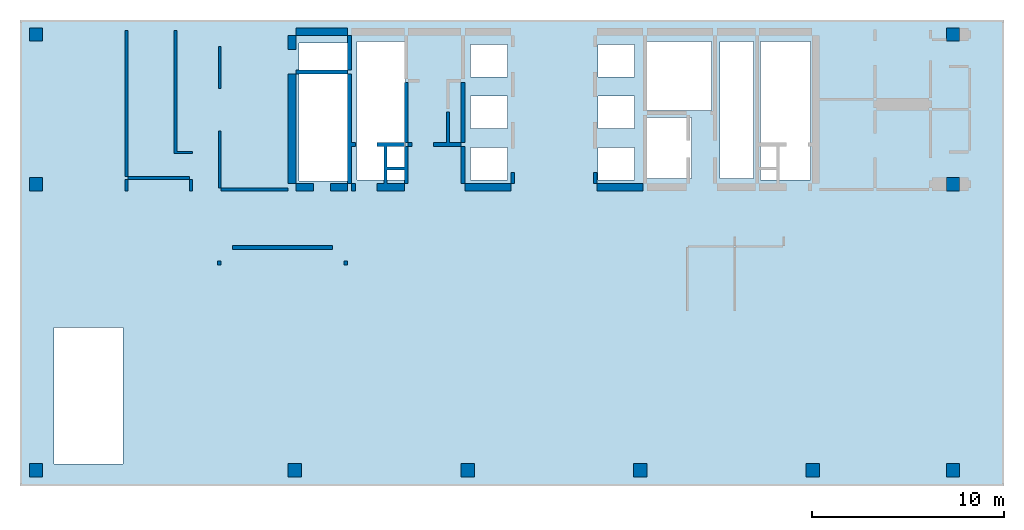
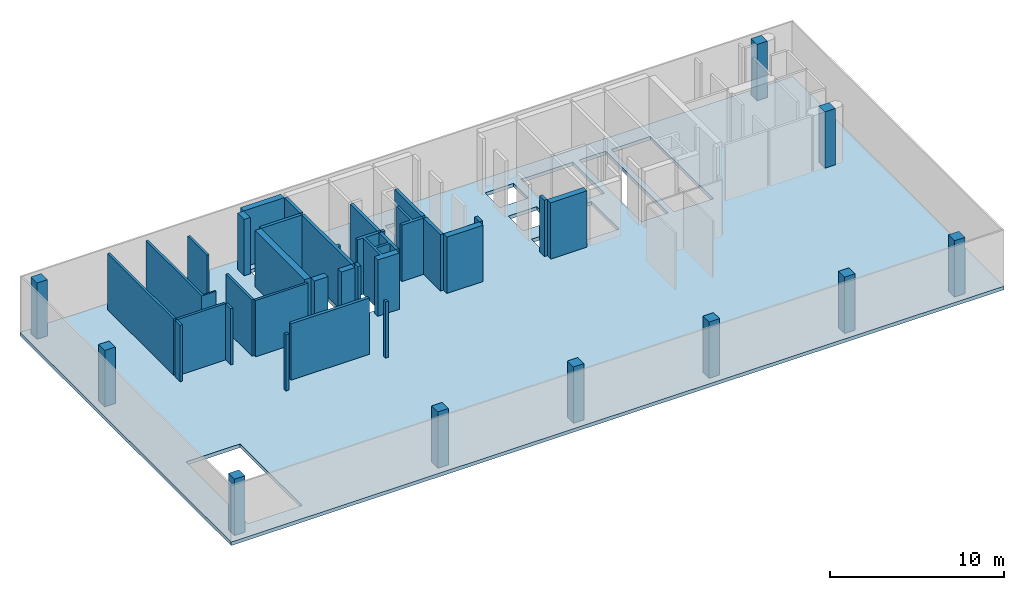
# One storey, part 1 of 4: 30 walls, 10 columns, 1 slab.
"""IFC4 building model written with IfcOpenShell, lengths in millimetres."""

from ifc_helpers import new_model, si_unit, frame, origin, place, context, project, spatial, triangles, element, save


model = new_model("IFC4")

# Units and contexts
model_context = context("Model", 3, precision=0.001, world=origin())
ifc_project = project(units=[si_unit("LENGTHUNIT", "METRE", prefix="MILLI"), si_unit("AREAUNIT", "SQUARE_METRE"), si_unit("VOLUMEUNIT", "CUBIC_METRE")], contexts=[model_context])

# Site, building, storey
site_placement = place(None, origin())
site = spatial("IfcSite", under=ifc_project, at=site_placement, Name="Site", CompositionType="ELEMENT")
building_placement = place(site_placement, origin())
building = spatial("IfcBuilding", under=site, at=building_placement, Name="INNOCEAN", CompositionType="ELEMENT")
storey_placement = place(building_placement, frame((0.0, 0.0, 30200.0)))
storey = spatial("IfcBuildingStorey", under=building, at=storey_placement, Name="F07", CompositionType="ELEMENT", Elevation=30200.0)

# Columns
column_1_placement = place(storey_placement, origin())
element("IfcColumn", 1, at=column_1_placement, inside=storey, Name="F07_Columns_F07_001", context=model_context, shape_type="Tessellation", body=[
    triangles([(40114.8, 2023.7, 0.0), (40114.8, 2023.7, 3950.0), (40114.8, 2722.3, 0.0), (40114.8, 2722.3, 3950.0), (40813.0, 2023.7, 3950.0), (40813.0, 2023.7, 0.0), (40813.0, 2722.3, 0.0), (40813.0, 2722.3, 3950.0)], [[1, 2, 3], [3, 2, 4], [5, 6, 7], [5, 7, 8], [6, 5, 1], [1, 5, 2], [8, 7, 3], [8, 3, 4], [3, 7, 1], [1, 7, 6], [8, 4, 2], [8, 2, 5]], closed=True),
])
column_2_placement = place(storey_placement, origin())
element("IfcColumn", 2, at=column_2_placement, inside=storey, Name="F07_Columns_F07_002", context=model_context, shape_type="Tessellation", body=[
    triangles([(47413.4, 24721.0, 0.0), (47413.4, 24721.0, 3950.0), (47413.4, 25419.5, 0.0), (47413.4, 25419.5, 3950.0), (48111.6, 24721.0, 3950.0), (48111.6, 24721.0, 0.0), (48111.6, 25419.5, 0.0), (48111.6, 25419.5, 3950.0)], [[1, 2, 3], [3, 2, 4], [5, 6, 7], [5, 7, 8], [6, 5, 1], [1, 5, 2], [8, 7, 3], [8, 3, 4], [1, 3, 6], [3, 7, 6], [4, 2, 5], [8, 4, 5]], closed=True),
])
column_3_placement = place(storey_placement, origin())
element("IfcColumn", 3, at=column_3_placement, inside=storey, Name="F07_Columns_F07_003", context=model_context, shape_type="Tessellation", body=[
    triangles([(47413.4, 16922.4, 0.0), (47413.4, 16922.4, 3950.0), (47413.4, 17620.9, 0.0), (47413.4, 17620.9, 3950.0), (48111.6, 16922.4, 3950.0), (48111.6, 16922.4, 0.0), (48111.6, 17620.9, 0.0), (48111.6, 17620.9, 3950.0)], [[1, 2, 3], [3, 2, 4], [5, 6, 7], [5, 7, 8], [6, 5, 1], [1, 5, 2], [8, 7, 3], [8, 3, 4], [1, 3, 6], [3, 7, 6], [4, 2, 5], [8, 4, 5]], closed=True),
])
column_4_placement = place(storey_placement, origin())
element("IfcColumn", 4, at=column_4_placement, inside=storey, Name="F07_Columns_F07_004", context=model_context, shape_type="Tessellation", body=[
    triangles([(13129.0, 2023.7, 0.0), (13129.0, 2023.7, 3950.0), (13129.0, 2722.3, 0.0), (13129.0, 2722.3, 3950.0), (13827.2, 2023.7, 3950.0), (13827.2, 2023.7, 0.0), (13827.2, 2722.3, 0.0), (13827.2, 2722.3, 3950.0)], [[1, 2, 3], [3, 2, 4], [5, 6, 7], [5, 7, 8], [6, 5, 1], [1, 5, 2], [8, 7, 3], [8, 3, 4], [3, 7, 1], [1, 7, 6], [8, 4, 2], [8, 2, 5]], closed=True),
])
column_5_placement = place(storey_placement, origin())
element("IfcColumn", 5, at=column_5_placement, inside=storey, Name="F07_Columns_F07_005", context=model_context, shape_type="Tessellation", body=[
    triangles([(47413.4, 2023.7, 0.0), (47413.4, 2023.7, 3950.0), (47413.4, 2722.3, 0.0), (47413.4, 2722.3, 3950.0), (48111.6, 2023.7, 3950.0), (48111.6, 2023.7, 0.0), (48111.6, 2722.3, 0.0), (48111.6, 2722.3, 3950.0)], [[1, 2, 3], [3, 2, 4], [5, 6, 7], [5, 7, 8], [6, 5, 1], [1, 5, 2], [8, 7, 3], [8, 3, 4], [3, 7, 1], [1, 7, 6], [8, 4, 2], [8, 2, 5]], closed=True),
])
column_6_placement = place(storey_placement, origin())
element("IfcColumn", 6, at=column_6_placement, inside=storey, Name="F07_Columns_F07_006", context=model_context, shape_type="Tessellation", body=[
    triangles([(-363.9, 2023.7, 0.0), (-363.9, 2023.7, 3950.0), (-363.9, 2722.3, 0.0), (-363.9, 2722.3, 3950.0), (334.3, 2023.7, 3950.0), (334.3, 2023.7, 0.0), (334.3, 2722.3, 0.0), (334.3, 2722.3, 3950.0)], [[1, 2, 3], [3, 2, 4], [5, 6, 7], [5, 7, 8], [6, 5, 1], [1, 5, 2], [8, 7, 3], [8, 3, 4], [3, 7, 1], [1, 7, 6], [8, 4, 2], [8, 2, 5]], closed=True),
])
column_7_placement = place(storey_placement, origin())
element("IfcColumn", 7, at=column_7_placement, inside=storey, Name="F07_Columns_F07_007", context=model_context, shape_type="Tessellation", body=[
    triangles([(-363.9, 24721.0, 0.0), (-363.9, 24721.0, 3950.0), (-363.9, 25419.5, 0.0), (-363.9, 25419.5, 3950.0), (334.3, 24721.0, 3950.0), (334.3, 24721.0, 0.0), (334.3, 25419.5, 0.0), (334.3, 25419.5, 3950.0)], [[1, 2, 3], [3, 2, 4], [5, 6, 7], [5, 7, 8], [6, 5, 1], [1, 5, 2], [8, 7, 3], [8, 3, 4], [3, 7, 1], [1, 7, 6], [8, 4, 2], [8, 2, 5]], closed=True),
])
column_8_placement = place(storey_placement, origin())
element("IfcColumn", 8, at=column_8_placement, inside=storey, Name="F07_Columns_F07_008", context=model_context, shape_type="Tessellation", body=[
    triangles([(31128.0, 2023.7, 0.0), (31128.0, 2023.7, 3950.0), (31128.0, 2722.3, 0.0), (31128.0, 2722.3, 3950.0), (31826.2, 2023.7, 3950.0), (31826.2, 2023.7, 0.0), (31826.2, 2722.3, 0.0), (31826.2, 2722.3, 3950.0)], [[1, 2, 3], [3, 2, 4], [5, 6, 7], [5, 7, 8], [6, 5, 1], [1, 5, 2], [8, 7, 3], [8, 3, 4], [3, 7, 1], [1, 7, 6], [8, 4, 2], [8, 2, 5]], closed=True),
])
column_9_placement = place(storey_placement, origin())
element("IfcColumn", 9, at=column_9_placement, inside=storey, Name="F07_Columns_F07_009", context=model_context, shape_type="Tessellation", body=[
    triangles([(22128.5, 2023.7, 0.0), (22128.5, 2023.7, 3950.0), (22128.5, 2722.3, 0.0), (22128.5, 2722.3, 3950.0), (22826.7, 2023.7, 3950.0), (22826.7, 2023.7, 0.0), (22826.7, 2722.3, 0.0), (22826.7, 2722.3, 3950.0)], [[1, 2, 3], [3, 2, 4], [5, 6, 7], [5, 7, 8], [6, 5, 1], [1, 5, 2], [8, 7, 3], [8, 3, 4], [3, 7, 1], [1, 7, 6], [8, 4, 2], [8, 2, 5]], closed=True),
])
column_10_placement = place(storey_placement, origin())
element("IfcColumn", 10, at=column_10_placement, inside=storey, Name="F07_Columns_F07_010", context=model_context, shape_type="Tessellation", body=[
    triangles([(-363.9, 16922.4, 0.0), (-363.9, 16922.4, 3950.0), (-363.9, 17620.9, 0.0), (-363.9, 17620.9, 3950.0), (334.3, 16922.4, 3950.0), (334.3, 16922.4, 0.0), (334.3, 17620.9, 0.0), (334.3, 17620.9, 3950.0)], [[1, 2, 3], [3, 2, 4], [5, 6, 7], [5, 7, 8], [6, 5, 1], [1, 5, 2], [8, 7, 3], [8, 3, 4], [3, 7, 1], [1, 7, 6], [8, 4, 2], [8, 2, 5]], closed=True),
])

# Slab
slab_placement = place(storey_placement, origin())
element("IfcSlab", 11, at=slab_placement, inside=storey, Name="F07_Slab_F07_001", context=model_context, shape_type="Tessellation", body=[
    triangles([(-846.215139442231, 25825.974025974, 0.0), (50420.3187250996, 25825.974025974, -250.0), (-846.215139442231, 25825.974025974, -250.0), (50420.3187250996, 25825.974025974, 0.0), (-846.215139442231, 1552.38095238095, 0.0), (-846.215139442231, 1552.38095238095, -250.0), (50420.3187250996, 1552.38095238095, 0.0), (50420.3187250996, 1552.38095238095, -250.0), (4513.14741035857, 9808.22510822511, 0.0), (916.733067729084, 9808.22510822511, 0.0), (916.733067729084, 9808.22510822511, -250.0), (4513.14741035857, 9808.22510822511, -250.0), (4513.14741035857, 2681.38528138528, 0.0), (4513.14741035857, 2681.38528138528, -250.0), (916.733067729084, 2681.38528138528, 0.0), (916.733067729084, 2681.38528138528, -250.0), (34130.6772908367, 20745.4545454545, -250.0), (31733.0677290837, 20745.4545454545, 0.0), (31733.0677290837, 20745.4545454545, -250.0), (34130.6772908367, 20745.4545454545, 0.0), (31733.0677290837, 17570.1298701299, 0.0), (31733.0677290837, 17570.1298701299, -250.0), (34130.6772908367, 17570.1298701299, 0.0), (34130.6772908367, 17570.1298701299, -250.0), (31168.9243027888, 19193.0735930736, 0.0), (29264.9402390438, 19193.0735930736, 0.0), (29264.9402390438, 19193.0735930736, -250.0), (31168.9243027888, 19193.0735930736, -250.0), (29264.9402390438, 17499.5670995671, 0.0), (29264.9402390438, 17499.5670995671, -250.0), (31168.9243027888, 17499.5670995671, 0.0), (31168.9243027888, 17499.5670995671, -250.0), (24540.2390438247, 19193.0735930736, -250.0), (22636.2549800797, 19193.0735930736, 0.0), (22636.2549800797, 19193.0735930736, -250.0), (24540.2390438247, 19193.0735930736, 0.0), (22636.2549800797, 17499.5670995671, 0.0), (22636.2549800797, 17499.5670995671, -250.0), (24540.2390438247, 17499.5670995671, 0.0), (24540.2390438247, 17499.5670995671, -250.0), (40336.2549800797, 24696.9696969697, -250.0), (37727.0916334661, 24696.9696969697, 0.0), (37727.0916334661, 24696.9696969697, -250.0), (40336.2549800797, 24696.9696969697, 0.0), (37727.0916334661, 17499.5670995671, 0.0), (37727.0916334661, 17499.5670995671, -250.0), (40336.2549800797, 17499.5670995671, 0.0), (40336.2549800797, 17499.5670995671, -250.0), (37374.5019920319, 24696.9696969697, 0.0), (35611.5537848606, 24696.9696969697, 0.0), (35611.5537848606, 24696.9696969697, -250.0), (37374.5019920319, 24696.9696969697, -250.0), (35611.5537848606, 17570.1298701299, 0.0), (35611.5537848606, 17570.1298701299, -250.0), (37374.5019920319, 17570.1298701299, 0.0), (37374.5019920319, 17570.1298701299, -250.0), (35188.4462151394, 24696.9696969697, 0.0), (31733.0677290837, 24696.9696969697, 0.0), (31733.0677290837, 24696.9696969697, -250.0), (35188.4462151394, 24696.9696969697, -250.0), (31733.0677290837, 21098.2683982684, 0.0), (31733.0677290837, 21098.2683982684, -250.0), (35188.4462151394, 21098.2683982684, 0.0), (35188.4462151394, 21098.2683982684, -250.0), (31168.9243027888, 21874.4588744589, 0.0), (29264.9402390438, 21874.4588744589, 0.0), (29264.9402390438, 21874.4588744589, -250.0), (31168.9243027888, 21874.4588744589, -250.0), (29264.9402390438, 20180.9523809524, 0.0), (29264.9402390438, 20180.9523809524, -250.0), (31168.9243027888, 20180.9523809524, 0.0), (31168.9243027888, 20180.9523809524, -250.0), (24540.2390438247, 21874.4588744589, -250.0), (22636.2549800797, 21874.4588744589, 0.0), (22636.2549800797, 21874.4588744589, -250.0), (24540.2390438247, 21874.4588744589, 0.0), (22636.2549800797, 20180.9523809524, 0.0), (22636.2549800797, 20180.9523809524, -250.0), (24540.2390438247, 20180.9523809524, 0.0), (24540.2390438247, 20180.9523809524, -250.0), (31168.9243027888, 24555.8441558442, 0.0), (29264.9402390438, 24555.8441558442, 0.0), (29264.9402390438, 24555.8441558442, -250.0), (31168.9243027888, 24555.8441558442, -250.0), (29264.9402390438, 22862.3376623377, 0.0), (29264.9402390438, 22862.3376623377, -250.0), (31168.9243027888, 22862.3376623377, 0.0), (31168.9243027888, 22862.3376623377, -250.0), (24540.2390438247, 24555.8441558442, -250.0), (22636.2549800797, 24555.8441558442, 0.0), (22636.2549800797, 24555.8441558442, -250.0), (24540.2390438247, 24555.8441558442, 0.0), (22636.2549800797, 22862.3376623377, 0.0), (22636.2549800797, 22862.3376623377, -250.0), (24540.2390438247, 22862.3376623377, 0.0), (24540.2390438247, 22862.3376623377, -250.0), (19251.3944223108, 24696.9696969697, 0.0), (16712.7490039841, 24696.9696969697, 0.0), (16712.7490039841, 24696.9696969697, -250.0), (19251.3944223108, 24696.9696969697, -250.0), (16712.7490039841, 17499.5670995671, 0.0), (16712.7490039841, 17499.5670995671, -250.0), (19251.3944223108, 17499.5670995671, 0.0), (19251.3944223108, 17499.5670995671, -250.0), (16219.1235059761, 24626.4069264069, 0.0), (13680.4780876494, 24626.4069264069, 0.0), (13680.4780876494, 24626.4069264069, -250.0), (16219.1235059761, 24626.4069264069, -250.0), (13680.4780876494, 17429.0043290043, 0.0), (13680.4780876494, 17429.0043290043, -250.0), (16219.1235059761, 17429.0043290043, 0.0), (16219.1235059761, 17429.0043290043, -250.0)], [[1, 2, 3], [1, 4, 2], [5, 1, 6], [6, 1, 3], [4, 7, 2], [2, 7, 8], [7, 6, 8], [7, 5, 6], [9, 10, 11], [9, 11, 12], [13, 9, 12], [13, 12, 14], [15, 13, 14], [15, 14, 16], [10, 15, 16], [10, 16, 11], [17, 18, 19], [20, 18, 17], [18, 21, 22], [18, 22, 19], [23, 20, 17], [23, 17, 24], [22, 23, 24], [21, 23, 22], [25, 26, 27], [25, 27, 28], [26, 29, 30], [26, 30, 27], [31, 25, 28], [31, 28, 32], [29, 31, 32], [29, 32, 30], [33, 34, 35], [36, 34, 33], [34, 37, 38], [34, 38, 35], [39, 36, 33], [39, 33, 40], [38, 39, 40], [37, 39, 38], [41, 42, 43], [44, 42, 41], [42, 45, 46], [42, 46, 43], [47, 44, 41], [47, 41, 48], [46, 47, 48], [45, 47, 46], [49, 50, 51], [49, 51, 52], [50, 53, 54], [50, 54, 51], [55, 49, 52], [55, 52, 56], [53, 55, 56], [53, 56, 54], [57, 58, 59], [57, 59, 60], [58, 61, 62], [58, 62, 59], [63, 57, 60], [63, 60, 64], [61, 63, 64], [61, 64, 62], [65, 66, 67], [65, 67, 68], [66, 69, 70], [66, 70, 67], [71, 65, 68], [71, 68, 72], [69, 71, 72], [69, 72, 70], [73, 74, 75], [76, 74, 73], [74, 77, 78], [74, 78, 75], [79, 76, 73], [79, 73, 80], [78, 79, 80], [77, 79, 78], [81, 82, 83], [81, 83, 84], [82, 85, 86], [82, 86, 83], [87, 81, 84], [87, 84, 88], [85, 87, 88], [85, 88, 86], [89, 90, 91], [92, 90, 89], [90, 93, 94], [90, 94, 91], [95, 92, 89], [95, 89, 96], [94, 95, 96], [93, 95, 94], [97, 98, 99], [97, 99, 100], [98, 101, 102], [98, 102, 99], [103, 97, 100], [103, 100, 104], [101, 103, 104], [101, 104, 102], [105, 106, 107], [105, 107, 108], [106, 109, 110], [106, 110, 107], [111, 105, 108], [111, 108, 112], [109, 111, 112], [109, 112, 110], [4, 47, 7], [47, 45, 7], [45, 53, 7], [55, 53, 45], [53, 23, 7], [4, 44, 47], [21, 31, 23], [23, 31, 7], [63, 20, 53], [53, 20, 23], [21, 25, 31], [31, 29, 7], [25, 18, 71], [18, 61, 71], [20, 61, 18], [50, 57, 63], [71, 26, 25], [61, 65, 71], [71, 69, 26], [61, 87, 65], [58, 81, 87], [87, 85, 65], [65, 85, 66], [29, 36, 39], [69, 36, 26], [26, 36, 29], [58, 82, 81], [69, 79, 36], [66, 79, 69], [66, 76, 79], [79, 77, 36], [36, 77, 34], [39, 13, 29], [37, 13, 39], [29, 13, 7], [34, 103, 37], [37, 103, 13], [77, 103, 34], [85, 95, 66], [66, 95, 76], [77, 74, 103], [95, 74, 76], [85, 92, 95], [82, 92, 85], [95, 93, 74], [103, 111, 13], [101, 111, 103], [15, 5, 13], [13, 5, 7], [111, 9, 13], [109, 9, 111], [90, 97, 93], [74, 97, 103], [93, 97, 74], [98, 105, 101], [101, 105, 111], [15, 10, 5], [98, 106, 105], [9, 1, 10], [10, 1, 5], [106, 1, 109], [109, 1, 9], [4, 1, 44], [44, 1, 42], [42, 1, 49], [49, 1, 50], [50, 1, 57], [57, 1, 58], [58, 1, 82], [82, 1, 92], [92, 1, 90], [90, 1, 97], [97, 1, 98], [98, 1, 106], [21, 18, 25], [53, 50, 63], [49, 55, 42], [42, 55, 45], [61, 58, 87], [63, 61, 20], [48, 2, 8], [46, 48, 8], [54, 46, 8], [54, 56, 46], [24, 54, 8], [41, 2, 48], [32, 22, 24], [32, 24, 8], [17, 64, 54], [17, 54, 24], [28, 22, 32], [30, 32, 8], [19, 28, 72], [62, 19, 72], [62, 17, 19], [60, 51, 64], [27, 72, 28], [68, 62, 72], [70, 72, 27], [88, 62, 68], [84, 59, 88], [86, 88, 68], [86, 68, 67], [33, 30, 40], [33, 70, 27], [33, 27, 30], [83, 59, 84], [80, 70, 33], [80, 67, 70], [73, 67, 80], [78, 80, 33], [78, 33, 35], [14, 40, 30], [14, 38, 40], [14, 30, 8], [104, 35, 38], [104, 38, 14], [104, 78, 35], [96, 86, 67], [96, 67, 73], [75, 78, 104], [75, 96, 73], [89, 86, 96], [89, 83, 86], [94, 96, 75], [112, 104, 14], [112, 102, 104], [6, 16, 14], [6, 14, 8], [12, 112, 14], [12, 110, 112], [100, 91, 94], [100, 75, 104], [100, 94, 75], [108, 99, 102], [108, 102, 112], [11, 16, 6], [107, 99, 108], [3, 12, 11], [3, 11, 6], [3, 107, 110], [3, 110, 12], [3, 2, 41], [3, 41, 43], [3, 43, 52], [3, 52, 51], [3, 51, 60], [3, 60, 59], [3, 59, 83], [3, 83, 89], [3, 89, 91], [3, 91, 100], [3, 100, 99], [3, 99, 107], [19, 22, 28], [51, 54, 64], [56, 52, 43], [56, 43, 46], [59, 62, 88], [62, 64, 17]], closed=True),
])

# Walls
wall_1_placement = place(storey_placement, origin())
element("IfcWall", 12, at=wall_1_placement, inside=storey, Name="F07_Walls_F07_001", context=model_context, shape_type="Tessellation", body=[
    triangles([(9638.4, 13073.9, 0.0), (9638.4, 13277.1, 0.0), (9638.4, 13277.1, 3950.0), (9638.4, 13073.9, 3950.0), (9435.3, 13073.9, 0.0), (9435.3, 13073.9, 3950.0), (9435.3, 13277.1, 0.0), (9435.3, 13277.1, 3950.0)], [[1, 2, 3], [1, 3, 4], [5, 1, 4], [5, 4, 6], [7, 5, 6], [7, 6, 8], [2, 7, 8], [2, 8, 3], [7, 2, 1], [7, 1, 5], [3, 8, 4], [4, 8, 6]], closed=True),
])
wall_2_placement = place(storey_placement, origin())
element("IfcWall", 13, at=wall_2_placement, inside=storey, Name="F07_Walls_F07_002", context=model_context, shape_type="Tessellation", body=[
    triangles([(16226.2, 13073.9, 0.0), (16226.2, 13277.1, 0.0), (16226.2, 13277.1, 3950.0), (16226.2, 13073.9, 3950.0), (16035.8, 13073.9, 0.0), (16035.8, 13073.9, 3950.0), (16035.8, 13277.1, 0.0), (16035.8, 13277.1, 3950.0)], [[1, 2, 3], [1, 3, 4], [5, 1, 4], [5, 4, 6], [7, 5, 6], [7, 6, 8], [2, 7, 8], [2, 8, 3], [7, 2, 1], [7, 1, 5], [3, 8, 4], [4, 8, 6]], closed=True),
])
wall_3_placement = place(storey_placement, origin())
element("IfcWall", 14, at=wall_3_placement, inside=storey, Name="F07_Walls_F07_003", context=model_context, shape_type="Tessellation", body=[
    triangles([(15426.5, 13874.1, 0.0), (15426.5, 14077.3, 0.0), (15426.5, 14077.3, 3950.0), (15426.5, 13874.1, 3950.0), (10235.0, 13874.1, 0.0), (10235.0, 13874.1, 3950.0), (10235.0, 14077.3, 0.0), (10235.0, 14077.3, 3950.0)], [[1, 2, 3], [1, 3, 4], [5, 1, 4], [5, 4, 6], [7, 5, 6], [7, 6, 8], [2, 7, 8], [2, 8, 3], [5, 2, 1], [7, 2, 5], [3, 6, 4], [3, 8, 6]], closed=True),
])
wall_4_placement = place(storey_placement, origin())
element("IfcWall", 15, at=wall_4_placement, inside=storey, Name="F07_Walls_F07_004", context=model_context, shape_type="Tessellation", body=[
    triangles([(13129.0, 16922.4, 0.0), (13129.0, 17074.8, 0.0), (13129.0, 17074.8, 3950.0), (13129.0, 16922.4, 3950.0), (9638.4, 16922.4, 3950.0), (9638.4, 16922.4, 0.0), (9638.4, 17074.8, 0.0), (9638.4, 17074.8, 3950.0)], [[1, 2, 3], [1, 3, 4], [1, 4, 5], [6, 1, 5], [7, 6, 5], [7, 5, 8], [7, 8, 3], [2, 7, 3], [7, 2, 1], [7, 1, 6], [3, 8, 4], [4, 8, 5]], closed=True),
])
wall_5_placement = place(storey_placement, origin())
element("IfcWall", 16, at=wall_5_placement, inside=storey, Name="F07_Walls_F07_005", context=model_context, shape_type="Tessellation", body=[
    triangles([(16226.2, 17316.1, 0.0), (16226.2, 17316.1, 3950.0), (16226.2, 16922.4, 3950.0), (16226.2, 16922.4, 0.0), (15337.6, 16922.4, 0.0), (15337.6, 16922.4, 3950.0), (15337.6, 17316.1, 3950.0), (15337.6, 17316.1, 0.0)], [[1, 2, 3], [4, 1, 3], [5, 4, 3], [5, 3, 6], [5, 6, 7], [8, 5, 7], [1, 8, 7], [1, 7, 2], [8, 1, 4], [8, 4, 5], [2, 7, 3], [3, 7, 6]], closed=True),
])
wall_6_placement = place(storey_placement, origin())
element("IfcWall", 17, at=wall_6_placement, inside=storey, Name="F07_Walls_F07_006", context=model_context, shape_type="Tessellation", body=[
    triangles([(14436.4, 17316.1, 0.0), (14436.4, 17316.1, 3950.0), (14436.4, 16922.4, 3950.0), (14436.4, 16922.4, 0.0), (13535.2, 16922.4, 0.0), (13535.2, 16922.4, 3950.0), (13535.2, 17316.1, 3950.0), (13535.2, 17316.1, 0.0)], [[1, 2, 3], [4, 1, 3], [5, 4, 3], [5, 3, 6], [5, 6, 7], [8, 5, 7], [1, 8, 7], [1, 7, 2], [8, 1, 4], [8, 4, 5], [2, 7, 3], [3, 7, 6]], closed=True),
])
wall_7_placement = place(storey_placement, origin())
element("IfcWall", 18, at=wall_7_placement, inside=storey, Name="F07_Walls_F07_007", context=model_context, shape_type="Tessellation", body=[
    triangles([(16632.4, 17316.1, 0.0), (16632.4, 17316.1, 3950.0), (16632.4, 16922.4, 3950.0), (16632.4, 16922.4, 0.0), (16429.3, 16922.4, 3950.0), (16429.3, 16922.4, 0.0), (16429.3, 17316.1, 3950.0), (16429.3, 17316.1, 0.0)], [[1, 2, 3], [4, 1, 3], [4, 3, 5], [6, 4, 5], [6, 5, 7], [8, 6, 7], [8, 7, 2], [1, 8, 2], [8, 1, 4], [8, 4, 6], [2, 7, 3], [3, 7, 5]], closed=True),
])
wall_8_placement = place(storey_placement, origin())
element("IfcWall", 19, at=wall_8_placement, inside=storey, Name="F07_Walls_F07_008", context=model_context, shape_type="Tessellation", body=[
    triangles([(17749.4, 16922.4, 0.0), (17749.4, 16922.4, 3950.0), (17749.4, 17316.1, 3950.0), (17749.4, 17316.1, 0.0), (19183.7, 16922.4, 0.0), (19183.7, 16922.4, 3950.0), (19183.7, 17316.1, 0.0), (19183.7, 17316.1, 3950.0), (19374.1, 17316.1, 0.0), (19374.1, 17316.1, 3950.0), (19374.1, 19246.7, 0.0), (19374.1, 19246.7, 3950.0), (19183.7, 19246.7, 0.0), (19183.7, 19246.7, 3950.0), (19183.7, 19449.9, 0.0), (19183.7, 19449.9, 3950.0), (17749.4, 19449.9, 0.0), (17749.4, 19449.9, 3950.0), (17749.4, 19246.7, 0.0), (17749.4, 19246.7, 3950.0), (18130.2, 19246.7, 0.0), (18130.2, 19246.7, 3950.0), (18130.2, 19245.0, 0.0), (18130.2, 19245.0, 3950.0), (18130.0, 19245.0, 0.0), (18130.0, 19245.0, 3950.0), (18130.0, 17316.1, 0.0), (18130.0, 17316.1, 3950.0), (18282.5, 17316.1, 0.0), (18282.5, 17316.1, 3950.0), (18282.5, 18014.7, 0.0), (18282.5, 18014.7, 3950.0), (19183.7, 18014.7, 0.0), (19183.7, 18014.7, 3950.0), (19183.7, 18167.1, 0.0), (19183.7, 18167.1, 3950.0), (18282.5, 18167.1, 0.0), (18282.5, 18167.1, 3950.0), (18282.5, 19246.7, 0.0), (18282.5, 19246.7, 3950.0)], [[1, 2, 3], [4, 1, 3], [1, 5, 6], [1, 6, 2], [7, 8, 6], [5, 7, 6], [7, 9, 10], [7, 10, 8], [9, 11, 12], [9, 12, 10], [11, 13, 14], [11, 14, 12], [13, 15, 16], [13, 16, 14], [15, 17, 18], [15, 18, 16], [17, 19, 20], [17, 20, 18], [21, 22, 20], [19, 21, 20], [21, 23, 24], [21, 24, 22], [23, 25, 26], [23, 26, 24], [25, 27, 28], [25, 28, 26], [27, 4, 3], [27, 3, 28], [7, 29, 30], [7, 30, 8], [29, 31, 32], [29, 32, 30], [31, 33, 34], [31, 34, 32], [33, 7, 8], [33, 8, 34], [13, 35, 36], [13, 36, 14], [35, 37, 38], [35, 38, 36], [37, 39, 40], [37, 40, 38], [39, 13, 14], [39, 14, 40], [33, 9, 7], [35, 9, 33], [29, 7, 5], [1, 29, 5], [27, 29, 1], [4, 27, 1], [31, 35, 33], [31, 29, 27], [11, 9, 35], [37, 35, 31], [13, 11, 35], [39, 15, 13], [23, 39, 37], [25, 23, 37], [21, 39, 23], [17, 21, 19], [17, 15, 39], [17, 39, 21], [27, 25, 37], [27, 37, 31], [10, 34, 8], [10, 36, 34], [8, 30, 6], [30, 2, 6], [30, 28, 2], [28, 3, 2], [36, 32, 34], [30, 32, 28], [10, 12, 36], [36, 38, 32], [12, 14, 36], [16, 40, 14], [40, 24, 38], [24, 26, 38], [40, 22, 24], [22, 18, 20], [16, 18, 40], [40, 18, 22], [26, 28, 38], [38, 28, 32]], closed=True),
])
wall_9_placement = place(storey_placement, origin())
element("IfcWall", 20, at=wall_9_placement, inside=storey, Name="F07_Walls_F07_009", context=model_context, shape_type="Tessellation", body=[
    triangles([(4789.6, 16922.4, 0.0), (4789.6, 17519.3, 0.0), (4789.6, 17519.3, 3950.0), (4789.6, 16922.4, 3950.0), (4637.3, 16922.4, 0.0), (4637.3, 16922.4, 3950.0), (4637.3, 17519.3, 0.0), (4637.3, 17519.3, 3950.0)], [[1, 2, 3], [1, 3, 4], [5, 1, 4], [5, 4, 6], [7, 5, 6], [7, 6, 8], [2, 7, 8], [2, 8, 3], [7, 2, 1], [7, 1, 5], [3, 8, 4], [4, 8, 6]], closed=True),
])
wall_10_placement = place(storey_placement, origin())
element("IfcWall", 21, at=wall_10_placement, inside=storey, Name="F07_Walls_F07_010", context=model_context, shape_type="Tessellation", body=[
    triangles([(8140.6, 16922.4, 0.0), (8140.6, 17519.3, 0.0), (8140.6, 17519.3, 3950.0), (8140.6, 16922.4, 3950.0), (7988.3, 16922.4, 0.0), (7988.3, 16922.4, 3950.0), (7988.3, 17519.3, 0.0), (7988.3, 17519.3, 3950.0)], [[1, 2, 3], [1, 3, 4], [5, 1, 4], [5, 4, 6], [7, 5, 6], [7, 6, 8], [2, 7, 8], [2, 8, 3], [7, 2, 1], [7, 1, 5], [3, 8, 4], [4, 8, 6]], closed=True),
])
wall_11_placement = place(storey_placement, origin())
element("IfcWall", 22, at=wall_11_placement, inside=storey, Name="F07_Walls_F07_011", context=model_context, shape_type="Tessellation", body=[
    triangles([(7988.3, 17519.3, 0.0), (7988.3, 17671.7, 0.0), (7988.3, 17671.7, 3950.0), (7988.3, 17519.3, 3950.0), (4789.6, 17519.3, 0.0), (4789.6, 17519.3, 3950.0), (4789.6, 17671.7, 0.0), (4789.6, 17671.7, 3950.0)], [[1, 2, 3], [1, 3, 4], [5, 1, 4], [5, 4, 6], [7, 5, 6], [7, 6, 8], [2, 7, 8], [2, 8, 3], [7, 2, 1], [7, 1, 5], [3, 8, 4], [4, 8, 6]], closed=True),
])
wall_12_placement = place(storey_placement, origin())
element("IfcWall", 23, at=wall_12_placement, inside=storey, Name="F07_Walls_F07_012", context=model_context, shape_type="Tessellation", body=[
    triangles([(16226.2, 23019.0, 0.0), (16226.2, 19449.9, 0.0), (16226.2, 19449.9, 3950.0), (16226.2, 23019.0, 3950.0), (16429.3, 23019.0, 0.0), (16429.3, 23019.0, 3950.0), (16429.3, 19449.9, 0.0), (16429.3, 19449.9, 3950.0), (16632.4, 19449.9, 3950.0), (16632.4, 19449.9, 0.0), (16632.4, 19246.7, 0.0), (16632.4, 19246.7, 3950.0), (16429.3, 19246.7, 3950.0), (16429.3, 19246.7, 0.0), (16429.3, 17316.1, 0.0), (16429.3, 17316.1, 3950.0), (16226.2, 17316.1, 0.0), (16226.2, 17316.1, 3950.0), (16226.2, 19246.7, 0.0), (16226.2, 19246.7, 3950.0)], [[1, 2, 3], [1, 3, 4], [5, 1, 4], [5, 4, 6], [7, 5, 6], [7, 6, 8], [7, 8, 9], [10, 7, 9], [11, 10, 9], [11, 9, 12], [11, 12, 13], [14, 11, 13], [15, 14, 13], [15, 13, 16], [17, 15, 16], [17, 16, 18], [19, 17, 18], [19, 18, 20], [2, 19, 20], [2, 20, 3], [19, 14, 15], [19, 15, 17], [7, 10, 11], [7, 11, 14], [2, 7, 14], [2, 14, 19], [5, 7, 2], [1, 5, 2], [13, 20, 16], [16, 20, 18], [9, 8, 12], [12, 8, 13], [8, 3, 13], [13, 3, 20], [8, 6, 3], [6, 4, 3]], closed=True),
])
wall_13_placement = place(storey_placement, origin())
element("IfcWall", 24, at=wall_13_placement, inside=storey, Name="F07_Walls_F07_013", context=model_context, shape_type="Tessellation", body=[
    triangles([(9638.4, 17074.8, 0.0), (9638.4, 20046.9, 0.0), (9638.4, 20046.9, 3950.0), (9638.4, 17074.8, 3950.0), (9486.1, 17074.8, 0.0), (9486.1, 17074.8, 3950.0), (9486.1, 20046.9, 0.0), (9486.1, 20046.9, 3950.0)], [[1, 2, 3], [1, 3, 4], [5, 1, 4], [5, 4, 6], [7, 5, 6], [7, 6, 8], [2, 7, 8], [2, 8, 3], [7, 2, 1], [7, 1, 5], [3, 8, 4], [4, 8, 6]], closed=True),
])
wall_14_placement = place(storey_placement, origin())
element("IfcWall", 25, at=wall_14_placement, inside=storey, Name="F07_Walls_F07_014", context=model_context, shape_type="Tessellation", body=[
    triangles([(7340.0, 18865.0, 0.0), (8140.0, 18865.0, 0.0), (8140.0, 18865.0, 3950.0), (7340.0, 18865.0, 3950.0), (7340.0, 18865.7, 3950.0), (7340.0, 18865.7, 0.0), (7188.6, 18865.7, 0.0), (7188.6, 18865.7, 3950.0), (7188.6, 25267.1, 3950.0), (7188.6, 25267.1, 0.0), (7340.9, 25267.1, 0.0), (7340.9, 25267.1, 3950.0), (7340.9, 18967.3, 0.0), (7340.9, 18967.3, 3950.0), (8140.6, 18967.3, 0.0), (8140.6, 18967.3, 3950.0), (8140.6, 18865.7, 0.0), (8140.6, 18865.7, 3950.0), (8140.0, 18865.7, 0.0), (8140.0, 18865.7, 3950.0)], [[1, 2, 3], [1, 3, 4], [1, 4, 5], [6, 1, 5], [7, 6, 5], [7, 5, 8], [9, 7, 8], [10, 7, 9], [11, 10, 9], [11, 9, 12], [13, 11, 12], [13, 12, 14], [15, 13, 14], [15, 14, 16], [17, 15, 16], [17, 16, 18], [19, 17, 18], [19, 18, 20], [19, 20, 3], [2, 19, 3], [15, 17, 19], [1, 19, 2], [6, 19, 1], [13, 15, 19], [13, 19, 6], [7, 13, 6], [10, 11, 13], [10, 13, 7], [18, 16, 20], [20, 4, 3], [20, 5, 4], [16, 14, 20], [20, 14, 5], [14, 8, 5], [12, 9, 14], [14, 9, 8]], closed=True),
])
wall_15_placement = place(storey_placement, origin())
element("IfcWall", 26, at=wall_15_placement, inside=storey, Name="F07_Walls_F07_015", context=model_context, shape_type="Tessellation", body=[
    triangles([(13535.2, 17316.1, 0.0), (13535.2, 23019.0, 0.0), (13535.2, 23019.0, 3950.0), (13535.2, 17316.1, 3950.0), (13129.0, 17316.1, 3950.0), (13129.0, 17316.1, 0.0), (13129.0, 23019.0, 0.0), (13129.0, 23019.0, 3950.0)], [[1, 2, 3], [1, 3, 4], [1, 4, 5], [6, 1, 5], [7, 6, 5], [7, 5, 8], [7, 8, 3], [2, 7, 3], [7, 2, 1], [7, 1, 6], [3, 8, 4], [4, 8, 5]], closed=True),
])
wall_16_placement = place(storey_placement, origin())
element("IfcWall", 27, at=wall_16_placement, inside=storey, Name="F07_Walls_F07_016", context=model_context, shape_type="Tessellation", body=[
    triangles([(19374.1, 19449.9, 0.0), (19374.1, 22574.4, 0.0), (19374.1, 22574.4, 3950.0), (19374.1, 19449.9, 3950.0), (19183.7, 19449.9, 0.0), (19183.7, 19449.9, 3950.0), (19183.7, 22574.4, 0.0), (19183.7, 22574.4, 3950.0)], [[1, 2, 3], [1, 3, 4], [5, 1, 4], [5, 4, 6], [7, 5, 6], [7, 6, 8], [2, 7, 8], [2, 8, 3], [2, 1, 5], [7, 2, 5], [4, 3, 6], [3, 8, 6]], closed=True),
])
wall_17_placement = place(storey_placement, origin())
element("IfcWall", 28, at=wall_17_placement, inside=storey, Name="F07_Walls_F07_017", context=model_context, shape_type="Tessellation", body=[
    triangles([(4789.6, 17671.7, 0.0), (4789.6, 25267.1, 0.0), (4789.6, 25267.1, 3950.0), (4789.6, 17671.7, 3950.0), (4637.3, 17671.7, 0.0), (4637.3, 17671.7, 3950.0), (4637.3, 25267.1, 0.0), (4637.3, 25267.1, 3950.0)], [[1, 2, 3], [1, 3, 4], [5, 1, 4], [5, 4, 6], [7, 5, 6], [7, 6, 8], [2, 7, 8], [2, 8, 3], [7, 2, 1], [7, 1, 5], [3, 8, 4], [4, 8, 6]], closed=True),
])
wall_18_placement = place(storey_placement, origin())
element("IfcWall", 29, at=wall_18_placement, inside=storey, Name="F07_Walls_F07_018", context=model_context, shape_type="Tessellation", body=[
    triangles([(16226.2, 23019.0, 0.0), (16226.2, 23222.2, 0.0), (16226.2, 23222.2, 3950.0), (16226.2, 23019.0, 3950.0), (13535.2, 23019.0, 0.0), (13535.2, 23019.0, 3950.0), (13535.2, 23222.2, 0.0), (13535.2, 23222.2, 3950.0)], [[1, 2, 3], [1, 3, 4], [5, 1, 4], [5, 4, 6], [7, 5, 6], [7, 6, 8], [2, 7, 8], [2, 8, 3], [7, 2, 1], [7, 1, 5], [3, 8, 4], [4, 8, 6]], closed=True),
])
wall_19_placement = place(storey_placement, origin())
element("IfcWall", 30, at=wall_19_placement, inside=storey, Name="F07_Walls_F07_019", context=model_context, shape_type="Tessellation", body=[
    triangles([(9638.4, 22244.2, 0.0), (9638.4, 24454.2, 0.0), (9638.4, 24454.2, 3950.0), (9638.4, 22244.2, 3950.0), (9486.1, 22244.2, 0.0), (9486.1, 22244.2, 3950.0), (9486.1, 24454.2, 0.0), (9486.1, 24454.2, 3950.0)], [[1, 2, 3], [1, 3, 4], [5, 1, 4], [5, 4, 6], [7, 5, 6], [7, 6, 8], [2, 7, 8], [2, 8, 3], [7, 2, 1], [7, 1, 5], [3, 8, 4], [4, 8, 6]], closed=True),
])
wall_20_placement = place(storey_placement, origin())
element("IfcWall", 31, at=wall_20_placement, inside=storey, Name="F07_Walls_F07_021", context=model_context, shape_type="Tessellation", body=[
    triangles([(16226.2, 25025.8, 0.0), (16226.2, 23222.2, 0.0), (16226.2, 23222.2, 3950.0), (16226.2, 25025.8, 3950.0), (16429.3, 25025.8, 0.0), (16429.3, 25025.8, 3950.0), (16429.3, 23222.2, 0.0), (16429.3, 23222.2, 3950.0)], [[1, 2, 3], [1, 3, 4], [5, 1, 4], [5, 4, 6], [7, 5, 6], [7, 6, 8], [2, 7, 8], [2, 8, 3], [1, 5, 7], [1, 7, 2], [6, 4, 8], [8, 4, 3]], closed=True),
])
wall_21_placement = place(storey_placement, origin())
element("IfcWall", 32, at=wall_21_placement, inside=storey, Name="F07_Walls_F07_022", context=model_context, shape_type="Tessellation", body=[
    triangles([(13535.2, 24276.4, 0.0), (13535.2, 25025.8, 0.0), (13535.2, 25025.8, 3950.0), (13535.2, 24276.4, 3950.0), (13129.0, 24276.4, 3950.0), (13129.0, 24276.4, 0.0), (13129.0, 25025.8, 0.0), (13129.0, 25025.8, 3950.0)], [[1, 2, 3], [1, 3, 4], [1, 4, 5], [6, 1, 5], [7, 6, 5], [7, 5, 8], [7, 8, 3], [2, 7, 3], [2, 1, 6], [7, 2, 6], [4, 3, 5], [3, 8, 5]], closed=True),
])
wall_22_placement = place(storey_placement, origin())
element("IfcWall", 33, at=wall_22_placement, inside=storey, Name="F07_Walls_F07_023", context=model_context, shape_type="Tessellation", body=[
    triangles([(13535.2, 25419.5, 0.0), (13535.2, 25025.8, 0.0), (13535.2, 25025.8, 3950.0), (13535.2, 25419.5, 3950.0), (16226.2, 25419.5, 0.0), (16226.2, 25419.5, 3950.0), (16226.2, 25025.8, 0.0), (16226.2, 25025.8, 3950.0)], [[1, 2, 3], [1, 3, 4], [5, 1, 4], [5, 4, 6], [7, 5, 6], [7, 6, 8], [2, 7, 8], [2, 8, 3], [2, 5, 7], [1, 5, 2], [6, 3, 8], [6, 4, 3]], closed=True),
])
wall_23_placement = place(storey_placement, origin())
element("IfcWall", 34, at=wall_23_placement, inside=storey, Name="F07_Walls_F07_026", context=model_context, shape_type="Tessellation", body=[
    triangles([(24730.6, 17316.1, 0.0), (24730.6, 17316.1, 3950.0), (24730.6, 16922.4, 3950.0), (24730.6, 16922.4, 0.0), (22331.6, 16922.4, 0.0), (22331.6, 16922.4, 3950.0), (22331.6, 17316.1, 3950.0), (22331.6, 17316.1, 0.0)], [[1, 2, 3], [4, 1, 3], [5, 4, 3], [5, 3, 6], [5, 6, 7], [8, 5, 7], [1, 8, 7], [1, 7, 2], [8, 1, 4], [8, 4, 5], [2, 7, 3], [3, 7, 6]], closed=True),
])
wall_24_placement = place(storey_placement, origin())
element("IfcWall", 35, at=wall_24_placement, inside=storey, Name="F07_Walls_F07_028", context=model_context, shape_type="Tessellation", body=[
    triangles([(31623.1, 17316.1, 0.0), (31623.1, 17316.1, 3950.0), (31623.1, 16922.4, 3950.0), (31623.1, 16922.4, 0.0), (29224.0, 16922.4, 0.0), (29224.0, 16922.4, 3950.0), (29224.0, 17316.1, 3950.0), (29224.0, 17316.1, 0.0)], [[1, 2, 3], [4, 1, 3], [5, 4, 3], [5, 3, 6], [5, 6, 7], [8, 5, 7], [1, 8, 7], [1, 7, 2], [8, 1, 4], [8, 4, 5], [2, 7, 3], [3, 7, 6]], closed=True),
])
wall_25_placement = place(storey_placement, origin())
element("IfcWall", 36, at=wall_25_placement, inside=storey, Name="F07_Walls_F07_029", context=model_context, shape_type="Tessellation", body=[
    triangles([(24921.0, 17875.0, 0.0), (24921.0, 17875.0, 3950.0), (24921.0, 17316.1, 3950.0), (24921.0, 17316.1, 0.0), (24730.6, 17316.1, 0.0), (24730.6, 17316.1, 3950.0), (24730.6, 17875.0, 3950.0), (24730.6, 17875.0, 0.0)], [[1, 2, 3], [4, 1, 3], [5, 4, 3], [5, 3, 6], [5, 6, 7], [8, 5, 7], [1, 8, 7], [1, 7, 2], [8, 1, 4], [8, 4, 5], [2, 7, 3], [3, 7, 6]], closed=True),
])
wall_26_placement = place(storey_placement, origin())
element("IfcWall", 37, at=wall_26_placement, inside=storey, Name="F07_Walls_F07_030", context=model_context, shape_type="Tessellation", body=[
    triangles([(29224.0, 17875.0, 0.0), (29224.0, 17875.0, 3950.0), (29224.0, 17316.1, 3950.0), (29224.0, 17316.1, 0.0), (29020.9, 17316.1, 0.0), (29020.9, 17316.1, 3950.0), (29020.9, 17875.0, 3950.0), (29020.9, 17875.0, 0.0)], [[1, 2, 3], [4, 1, 3], [5, 4, 3], [5, 3, 6], [5, 6, 7], [8, 5, 7], [1, 8, 7], [1, 7, 2], [8, 1, 4], [8, 4, 5], [2, 7, 3], [3, 7, 6]], closed=True),
])
wall_27_placement = place(storey_placement, origin())
element("IfcWall", 38, at=wall_27_placement, inside=storey, Name="F07_Walls_F07_031", context=model_context, shape_type="Tessellation", body=[
    triangles([(22331.6, 17316.1, 0.0), (22331.6, 19246.7, 0.0), (22331.6, 19246.7, 3950.0), (22331.6, 17316.1, 3950.0), (22128.5, 17316.1, 0.0), (22128.5, 17316.1, 3950.0), (22128.5, 19246.7, 0.0), (22128.5, 19246.7, 3950.0)], [[1, 2, 3], [1, 3, 4], [5, 1, 4], [5, 4, 6], [7, 5, 6], [7, 6, 8], [2, 7, 8], [2, 8, 3], [7, 2, 1], [7, 1, 5], [3, 8, 4], [4, 8, 6]], closed=True),
])
wall_28_placement = place(storey_placement, origin())
element("IfcWall", 39, at=wall_28_placement, inside=storey, Name="F07_Walls_F07_033", context=model_context, shape_type="Tessellation", body=[
    triangles([(19374.1, 19449.9, 0.0), (19374.1, 19449.9, 3950.0), (19577.2, 19449.9, 3950.0), (19577.2, 19449.9, 0.0), (19577.2, 19246.7, 0.0), (19577.2, 19246.7, 3950.0), (19374.1, 19246.7, 3950.0), (19374.1, 19246.7, 0.0)], [[1, 2, 3], [4, 1, 3], [5, 4, 3], [5, 3, 6], [5, 6, 7], [8, 5, 7], [1, 8, 7], [1, 7, 2], [1, 4, 5], [1, 5, 8], [3, 2, 6], [6, 2, 7]], closed=True),
])
wall_29_placement = place(storey_placement, origin())
element("IfcWall", 40, at=wall_29_placement, inside=storey, Name="F07_Walls_F07_034", context=model_context, shape_type="Tessellation", body=[
    triangles([(21366.9, 21024.9, 0.0), (21366.9, 19449.9, 0.0), (21366.9, 19449.9, 3950.0), (21366.9, 21024.9, 3950.0), (21519.3, 21024.9, 0.0), (21519.3, 21024.9, 3950.0), (21519.3, 19449.9, 0.0), (21519.3, 19449.9, 3950.0), (22128.5, 19449.9, 0.0), (22128.5, 19449.9, 3950.0), (22128.5, 19246.7, 0.0), (22128.5, 19246.7, 3950.0), (20694.2, 19246.7, 0.0), (20694.2, 19246.7, 3950.0), (20694.2, 19449.9, 0.0), (20694.2, 19449.9, 3950.0)], [[1, 2, 3], [1, 3, 4], [5, 1, 4], [5, 4, 6], [7, 5, 6], [7, 6, 8], [9, 7, 8], [9, 8, 10], [11, 9, 10], [11, 10, 12], [13, 11, 12], [13, 12, 14], [15, 13, 14], [15, 14, 16], [2, 15, 16], [2, 16, 3], [7, 9, 11], [2, 7, 11], [13, 2, 11], [15, 2, 13], [1, 5, 7], [1, 7, 2], [10, 8, 12], [8, 3, 12], [3, 14, 12], [3, 16, 14], [6, 4, 8], [8, 4, 3]], closed=True),
])
wall_30_placement = place(storey_placement, origin())
element("IfcWall", 41, at=wall_30_placement, inside=storey, Name="F07_Walls_F07_038", context=model_context, shape_type="Tessellation", body=[
    triangles([(22331.6, 19449.9, 0.0), (22331.6, 22574.4, 0.0), (22331.6, 22574.4, 3950.0), (22331.6, 19449.9, 3950.0), (22128.5, 19449.9, 0.0), (22128.5, 19449.9, 3950.0), (22128.5, 22574.4, 0.0), (22128.5, 22574.4, 3950.0)], [[1, 2, 3], [1, 3, 4], [5, 1, 4], [5, 4, 6], [7, 5, 6], [7, 6, 8], [2, 7, 8], [2, 8, 3], [2, 1, 5], [7, 2, 5], [4, 3, 6], [3, 8, 6]], closed=True),
])

save(model, "model.ifc")
